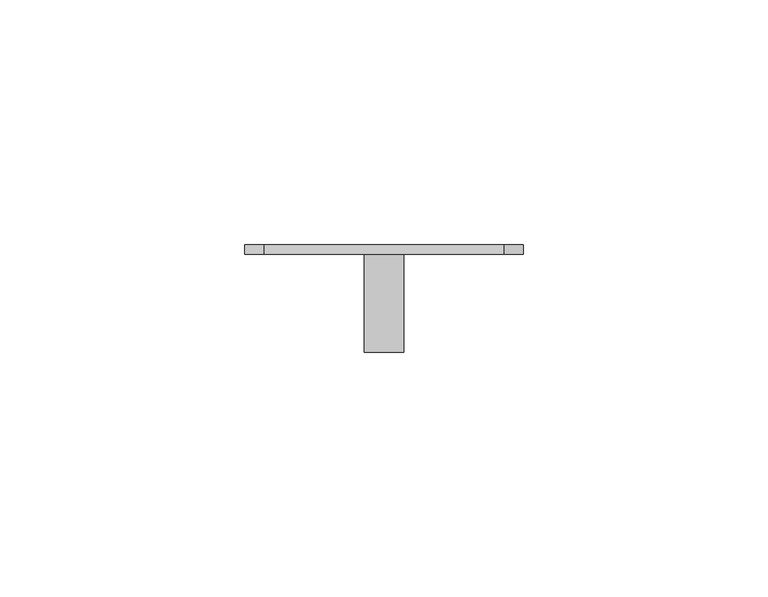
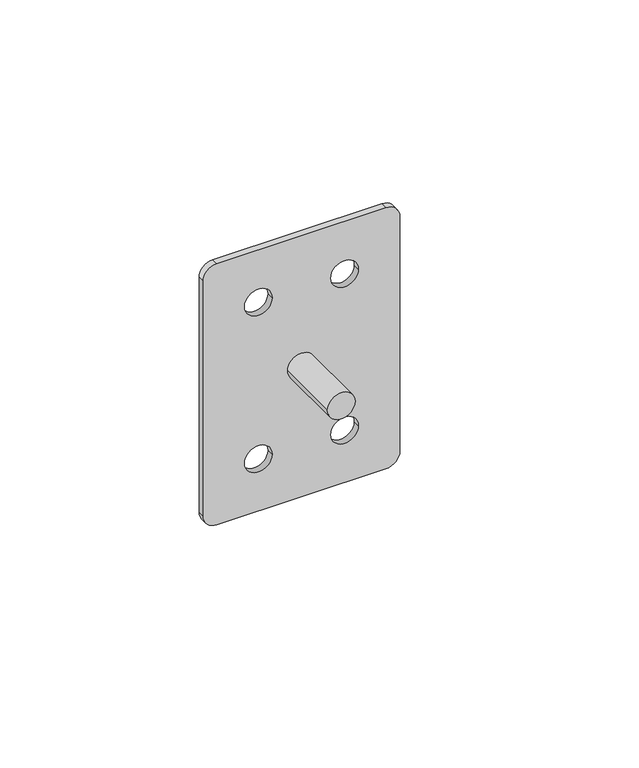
"""IFC4 building model written with IfcOpenShell, lengths in millimetres: proxy geometry, КНС_ДержательНастенныйИзоляционнойШтанги_DKC : NF0002_Гальванически оцинкованнная сталь."""

from ifc_helpers import new_model, si_unit, point, frame, frame_2d, origin, origin_2d, place, context, project, spatial, polyline, circle_curve, trimmed, segment, composite_curve, outline, extrude, source, transform, mapped, element, save


def security_devices_edb8f459(model_context):
    return source(origin(), model_context, "Body", "SweptSolid", [
        extrude(outline(composite_curve([segment(trimmed(circle_curve(origin_2d(), 4.0), [point((0.0, -4.0))], [point((0.0, 4.0))], False, "CARTESIAN"), True, "CONTINUOUS"), segment(trimmed(circle_curve(origin_2d(), 4.0), [point((0.0, 4.0))], [point((0.0, -4.0))], False, "CARTESIAN"), True, "CONTINUOUS")], self_intersect=False)), frame((0.0, -22.0, 0.0), z_axis=(0.0, 1.0, 0.0), x_axis=(0.0, 0.0, 1.0)), (0.0, 0.0, 1.0), 20.0),
        extrude(outline(composite_curve([segment(trimmed(circle_curve(frame_2d((-36.0, 24.5)), 4.0), [point((-40.0, 24.5))], [point((-36.0, 28.5))], False, "CARTESIAN"), True, "CONTINUOUS"), segment(polyline([(-36.0, 28.5), (36.0, 28.5)]), True, "CONTINUOUS"), segment(trimmed(circle_curve(frame_2d((36.0, 24.5)), 4.0), [point((36.0, 28.5))], [point((40.0, 24.5))], False, "CARTESIAN"), True, "CONTINUOUS"), segment(polyline([(40.0, 24.5), (40.0, -24.5)]), True, "CONTINUOUS"), segment(trimmed(circle_curve(frame_2d((36.0, -24.5)), 4.0), [point((40.0, -24.5))], [point((36.0, -28.5))], False, "CARTESIAN"), True, "CONTINUOUS"), segment(polyline([(36.0, -28.5), (-36.0, -28.5)]), True, "CONTINUOUS"), segment(trimmed(circle_curve(frame_2d((-36.0, -24.5)), 4.0), [point((-36.0, -28.5))], [point((-40.0, -24.5))], False, "CARTESIAN"), True, "CONTINUOUS"), segment(polyline([(-40.0, -24.5), (-40.0, 24.5)]), True, "CONTINUOUS")], self_intersect=False), holes=[composite_curve([segment(trimmed(circle_curve(frame_2d((24.0, -12.5)), 4.0), [point((24.0, -16.5))], [point((24.0, -8.5))], True, "CARTESIAN"), True, "CONTINUOUS"), segment(trimmed(circle_curve(frame_2d((24.0, -12.5)), 4.0), [point((24.0, -8.5))], [point((24.0, -16.5))], True, "CARTESIAN"), True, "CONTINUOUS")], self_intersect=False), composite_curve([segment(trimmed(circle_curve(frame_2d((24.0, 12.5)), 4.0), [point((24.0, 8.5))], [point((24.0, 16.5))], True, "CARTESIAN"), True, "CONTINUOUS"), segment(trimmed(circle_curve(frame_2d((24.0, 12.5)), 4.0), [point((24.0, 16.5))], [point((24.0, 8.5))], True, "CARTESIAN"), True, "CONTINUOUS")], self_intersect=False), composite_curve([segment(trimmed(circle_curve(frame_2d((-24.0, 12.5)), 4.0), [point((-24.0, 8.5))], [point((-24.0, 16.5))], True, "CARTESIAN"), True, "CONTINUOUS"), segment(trimmed(circle_curve(frame_2d((-24.0, 12.5)), 4.0), [point((-24.0, 16.5))], [point((-24.0, 8.5))], True, "CARTESIAN"), True, "CONTINUOUS")], self_intersect=False), composite_curve([segment(trimmed(circle_curve(frame_2d((-24.0, -12.5)), 4.0), [point((-24.0, -16.5))], [point((-24.0, -8.5))], True, "CARTESIAN"), True, "CONTINUOUS"), segment(trimmed(circle_curve(frame_2d((-24.0, -12.5)), 4.0), [point((-24.0, -8.5))], [point((-24.0, -16.5))], True, "CARTESIAN"), True, "CONTINUOUS")], self_intersect=False)]), frame((0.0, -2.0, 0.0), z_axis=(0.0, 1.0, 0.0), x_axis=(0.0, 0.0, 1.0)), (0.0, 0.0, 1.0), 2.0),
    ])


if __name__ == "__main__":
    model = new_model("IFC4")
    model_context = context("Model", 3, world=origin())
    ifc_project = project(units=[si_unit("LENGTHUNIT", "METRE", prefix="MILLI")], contexts=[model_context])
    site = spatial("IfcSite", under=ifc_project)
    building = spatial("IfcBuilding", under=site)
    placement = place(None, origin())
    security_devices_shape = security_devices_edb8f459(model_context)
    element("IfcBuildingElementProxy", 1, Name="КНС_ДержательНастенныйИзоляционнойШтанги_DKC : NF0002_Гальванически оцинкованнная сталь", ObjectType="КНС_ДержательНастенныйИзоляционнойШтанги_DKC : NF0002_Гальванически оцинкованнная сталь", at=placement, inside=building, context=model_context, shape_type="MappedRepresentation", body=[
        mapped(security_devices_shape, transform((0.0, 0.0, 0.0), x_axis=(1.0, 0.0, 0.0), y_axis=(0.0, 1.0, 0.0), z_axis=(0.0, 0.0, 1.0))),
    ])
    save(model, "model.ifc")
